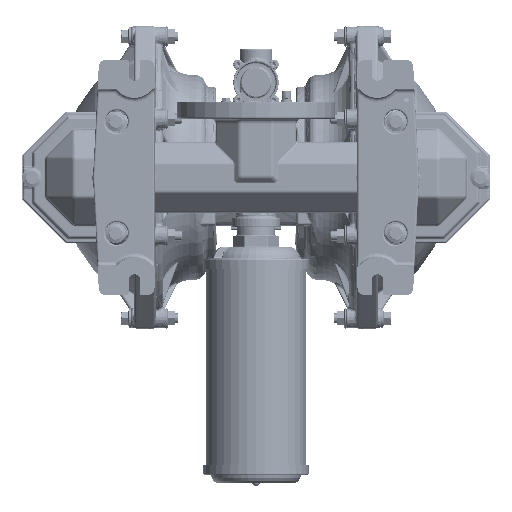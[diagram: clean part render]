
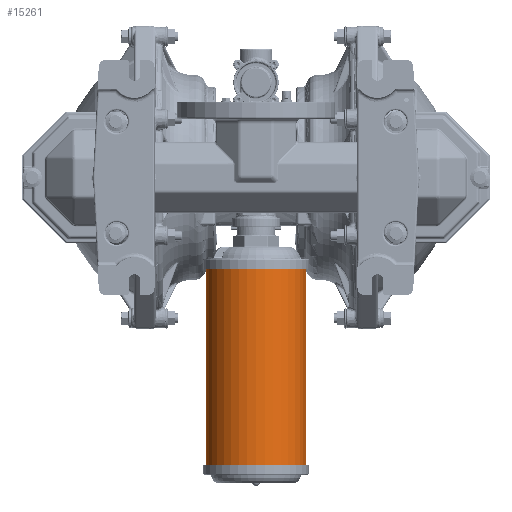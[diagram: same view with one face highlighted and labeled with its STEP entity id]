
A CAD part, front view. The second image highlights one B-rep face of the part: STEP entity #15261.
In plain terms, the highlighted cylindrical face has radius 63.5 mm (diameter 127 mm), a partial arc.
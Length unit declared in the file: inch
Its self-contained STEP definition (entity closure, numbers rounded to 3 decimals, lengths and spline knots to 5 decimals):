
#4189=CYLINDRICAL_SURFACE('',#141453,2.5);
#7730=CIRCLE('',#141424,2.5);
#7740=CIRCLE('',#141442,2.5);
#7742=CIRCLE('',#141445,2.5);
#7745=CIRCLE('',#141450,2.5);
#7746=CIRCLE('',#141451,2.5);
#7747=CIRCLE('',#141452,2.5);
#15261=ADVANCED_FACE('',(#26594),#4189,.T.);
#26594=FACE_OUTER_BOUND('',#35589,.T.);
#35589=EDGE_LOOP('',(#51450,#51451,#51452,#51453,#51454,#51455,#51456,#51457));
#51450=ORIENTED_EDGE('',*,*,#106159,.F.);
#51451=ORIENTED_EDGE('',*,*,#106164,.T.);
#51452=ORIENTED_EDGE('',*,*,#106165,.F.);
#51453=ORIENTED_EDGE('',*,*,#106166,.F.);
#51454=ORIENTED_EDGE('',*,*,#106167,.F.);
#51455=ORIENTED_EDGE('',*,*,#106148,.F.);
#51456=ORIENTED_EDGE('',*,*,#106155,.F.);
#51457=ORIENTED_EDGE('',*,*,#106132,.F.);
#93750=VERTEX_POINT('',#191967);
#93751=VERTEX_POINT('',#191969);
#93761=VERTEX_POINT('',#192027);
#93762=VERTEX_POINT('',#192029);
#93768=VERTEX_POINT('',#192090);
#93772=VERTEX_POINT('',#192102);
#93773=VERTEX_POINT('',#192104);
#93774=VERTEX_POINT('',#192106);
#106132=EDGE_CURVE('',#93750,#93751,#7730,.T.);
#106148=EDGE_CURVE('',#93761,#93762,#127315,.T.);
#106155=EDGE_CURVE('',#93751,#93761,#7740,.T.);
#106159=EDGE_CURVE('',#93768,#93750,#7742,.T.);
#106164=EDGE_CURVE('',#93768,#93772,#127319,.T.);
#106165=EDGE_CURVE('',#93773,#93772,#7745,.T.);
#106166=EDGE_CURVE('',#93774,#93773,#7746,.T.);
#106167=EDGE_CURVE('',#93762,#93774,#7747,.T.);
#127315=LINE('',#192028,#134325);
#127319=LINE('',#192101,#134329);
#134325=VECTOR('',#156118,1.);
#134329=VECTOR('',#156148,1.);
#141424=AXIS2_PLACEMENT_3D('',#191968,#156088,#156089);
#141442=AXIS2_PLACEMENT_3D('',#192050,#156130,#156131);
#141445=AXIS2_PLACEMENT_3D('',#192091,#156136,#156137);
#141450=AXIS2_PLACEMENT_3D('',#192103,#156149,#156150);
#141451=AXIS2_PLACEMENT_3D('',#192105,#156151,#156152);
#141452=AXIS2_PLACEMENT_3D('',#192107,#156153,#156154);
#141453=AXIS2_PLACEMENT_3D('',#192108,#156155,#156156);
#156088=DIRECTION('',(0.,0.,-1.));
#156089=DIRECTION('',(1.,0.,0.));
#156118=DIRECTION('',(0.,0.,1.));
#156130=DIRECTION('',(0.,0.,-1.));
#156131=DIRECTION('',(1.,0.,0.));
#156136=DIRECTION('',(0.,0.,-1.));
#156137=DIRECTION('',(1.,0.,0.));
#156148=DIRECTION('',(0.,0.,1.));
#156149=DIRECTION('',(0.,0.,1.));
#156150=DIRECTION('',(-1.,0.,0.));
#156151=DIRECTION('',(0.,0.,1.));
#156152=DIRECTION('',(-1.,0.,0.));
#156153=DIRECTION('',(0.,0.,1.));
#156154=DIRECTION('',(-1.,0.,0.));
#156155=DIRECTION('',(0.,0.,1.));
#156156=DIRECTION('',(-1.,0.,0.));
#191967=CARTESIAN_POINT('',(2.16506,-4.94,-14.50634));
#191968=CARTESIAN_POINT('',(0.,-6.19,-14.50634));
#191969=CARTESIAN_POINT('',(-2.16506,-7.44,-14.50634));
#192027=CARTESIAN_POINT('',(0.14488,-3.6942,-14.50634));
#192028=CARTESIAN_POINT('',(0.14488,-3.6942,-14.59028));
#192029=CARTESIAN_POINT('',(0.14488,-3.6942,-4.29125));
#192050=CARTESIAN_POINT('',(0.,-6.19,-14.50634));
#192090=CARTESIAN_POINT('',(0.19171,-3.69736,-14.50634));
#192091=CARTESIAN_POINT('',(0.,-6.19,-14.50634));
#192101=CARTESIAN_POINT('',(0.19171,-3.69736,-14.59028));
#192102=CARTESIAN_POINT('',(0.19171,-3.69736,-4.29125));
#192103=CARTESIAN_POINT('',(0.,-6.19,-4.29125));
#192104=CARTESIAN_POINT('',(2.16506,-4.94,-4.29125));
#192105=CARTESIAN_POINT('',(0.,-6.19,-4.29125));
#192106=CARTESIAN_POINT('',(-2.16506,-7.44,-4.29125));
#192107=CARTESIAN_POINT('',(0.,-6.19,-4.29125));
#192108=CARTESIAN_POINT('',(0.,-6.19,-14.59028));
